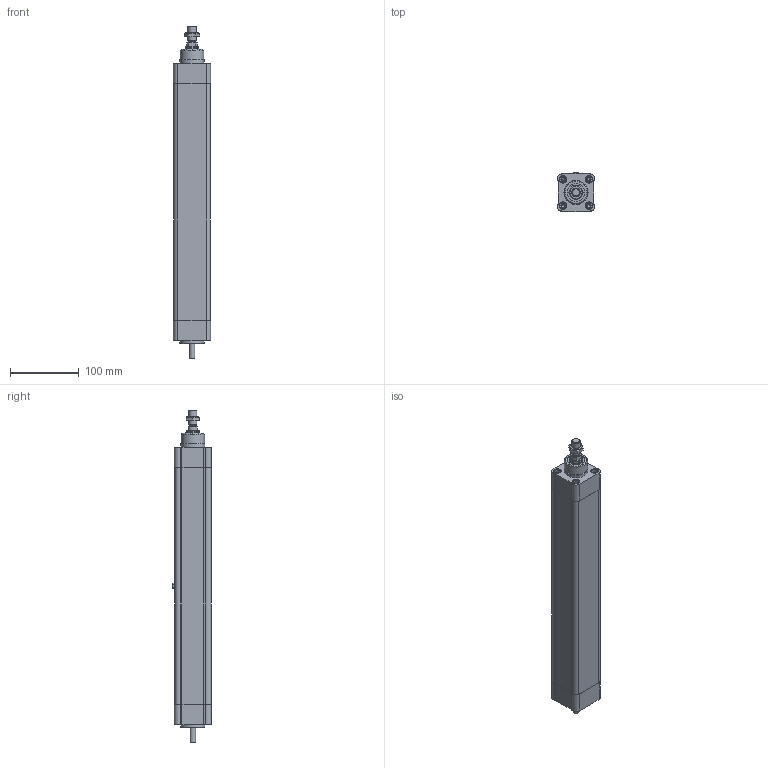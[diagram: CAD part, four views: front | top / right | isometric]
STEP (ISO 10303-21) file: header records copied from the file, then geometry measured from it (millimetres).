
FILE_DESCRIPTION(/* description */ ('STEP AP214'),/* implementation_level */ '2;1');
FILE_NAME(/* name */ 'PNCE 40 BS 1610 260 S(0)',/* time_stamp */ '2026-03-24T11:31:19+01:00',/* author */ ('License CC BY-ND 4.0'),/* organization */ ('CADENAS'),/* preprocessor_version */ 'ST-DEVELOPER v20',/* originating_system */ 'PARTsolutions',/* authorisation */ ' ');
FILE_SCHEMA (('AUTOMOTIVE_DESIGN {1 0 10303 214 3 1 1}'));
Length unit declared in the file: millimetre
Products named in the file (6): PNCE 40 BS 1610 260 S(0); PNCE 40_drive cap; PNCE 40 260 S(0)_cylinder profil; PNCE 40_front cap; PNCE 40 260 S 0_piston rod; PNCE 40_nut
Assembly tree (5 placements, depth 2):
  PNCE 40 BS 1610 260 S(0)
    PNCE 40_drive cap
    PNCE 40 260 S(0)_cylinder profil
    PNCE 40_front cap
    PNCE 40 260 S 0_piston rod
    PNCE 40_nut
Bounding box: 53.97 x 56.5 x 483 mm (x, y, z)
Volume: 844469.7 mm3; surface area: 219327.6 mm2
Topology: 5 solids, 5 shells, 250 faces, 548 edges, 358 vertices
Faces by surface type: plane 136, cylinder 84, cone 30
Full cylindrical faces by diameter (mm): 4.917 x8, 5 x12, 5.3 x1, 6.5 x4, 8 x1, 8.566 x1, 10 x8, 10.4 x1, 10.647 x1, 11 x8, 12 x1, 19.9 x1, 20 x2, 22 x1, 26 x1, 34 x1, 35 x2, 39 x1, 40 x3
Entity records: 8005 total; most frequent: DIRECTION 1126, CARTESIAN_POINT 1121, ORIENTED_EDGE 884, AXIS2_PLACEMENT_3D 444, EDGE_CURVE 442, FACE_BOUND 409, EDGE_LOOP 400, VERTEX_POINT 347
